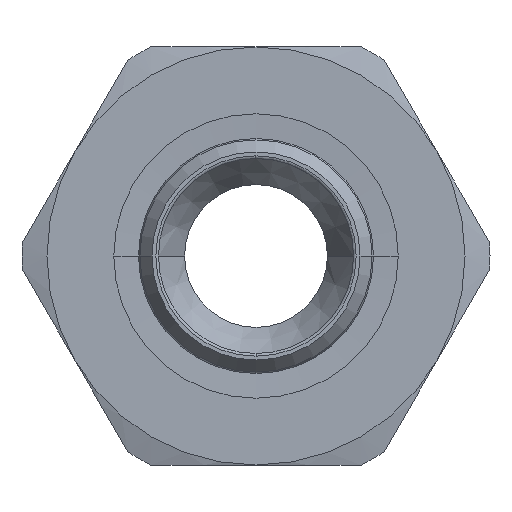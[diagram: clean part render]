
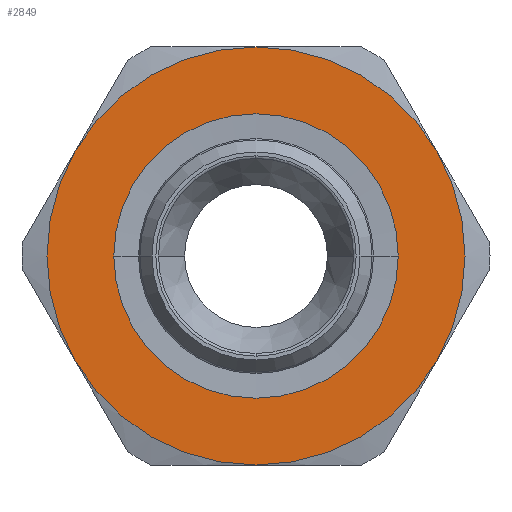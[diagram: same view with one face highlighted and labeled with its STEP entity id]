
A CAD part, left-side view. The second image highlights one B-rep face of the part: STEP entity #2849.
In plain terms, the highlighted planar face has unit normal (-1, 0, 0) as drawn and (0, 0, 1) by its records, which use the part's own axes.
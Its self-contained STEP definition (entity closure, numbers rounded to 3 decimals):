
#1176=CARTESIAN_POINT('',(0.,-13.95,5.));
#1177=VERTEX_POINT('',#1176);
#1193=CARTESIAN_POINT('',(0.,13.95,5.0));
#1194=VERTEX_POINT('',#1193);
#1201=CARTESIAN_POINT('',(0.,0.,5.0));
#1202=DIRECTION('',(0.0,0.0,-1.0));
#1203=DIRECTION('',(0.0,-1.0,0.0));
#1204=AXIS2_PLACEMENT_3D('',#1201,#1202,#1203);
#1205=CIRCLE('',#1204,13.95);
#1206=EDGE_CURVE('',#1177,#1194,#1205,.T.);
#1663=CARTESIAN_POINT('',(0.,0.,5.0));
#1664=DIRECTION('',(0.0,0.0,-1.0));
#1665=DIRECTION('',(0.0,-1.0,0.0));
#1666=AXIS2_PLACEMENT_3D('',#1663,#1664,#1665);
#1667=CIRCLE('',#1666,13.95);
#1668=EDGE_CURVE('',#1194,#1177,#1667,.T.);
#2222=CARTESIAN_POINT('',(10.25,-17.754,5.0));
#2223=VERTEX_POINT('',#2222);
#2237=CARTESIAN_POINT('',(-10.25,-17.754,5.0));
#2238=VERTEX_POINT('',#2237);
#2239=CARTESIAN_POINT('',(0.,0.0,5.0));
#2240=DIRECTION('',(0.0,0.0,1.0));
#2241=DIRECTION('',(1.0,0.0,0.0));
#2242=AXIS2_PLACEMENT_3D('',#2239,#2240,#2241);
#2243=CIRCLE('',#2242,20.5);
#2244=EDGE_CURVE('',#2238,#2223,#2243,.T.);
#2322=CARTESIAN_POINT('',(-20.5,0.,5.0));
#2323=VERTEX_POINT('',#2322);
#2324=CARTESIAN_POINT('',(0.,0.0,5.0));
#2325=DIRECTION('',(0.0,0.0,1.0));
#2326=DIRECTION('',(1.0,0.0,0.0));
#2327=AXIS2_PLACEMENT_3D('',#2324,#2325,#2326);
#2328=CIRCLE('',#2327,20.5);
#2329=EDGE_CURVE('',#2323,#2238,#2328,.T.);
#2406=CARTESIAN_POINT('',(-10.25,17.754,5.0));
#2407=VERTEX_POINT('',#2406);
#2408=CARTESIAN_POINT('',(0.,0.0,5.0));
#2409=DIRECTION('',(0.0,0.0,1.0));
#2410=DIRECTION('',(1.0,0.0,0.0));
#2411=AXIS2_PLACEMENT_3D('',#2408,#2409,#2410);
#2412=CIRCLE('',#2411,20.5);
#2413=EDGE_CURVE('',#2407,#2323,#2412,.T.);
#2490=CARTESIAN_POINT('',(10.25,17.754,5.0));
#2491=VERTEX_POINT('',#2490);
#2492=CARTESIAN_POINT('',(0.,0.0,5.0));
#2493=DIRECTION('',(0.0,0.0,1.0));
#2494=DIRECTION('',(1.0,0.0,0.0));
#2495=AXIS2_PLACEMENT_3D('',#2492,#2493,#2494);
#2496=CIRCLE('',#2495,20.5);
#2497=EDGE_CURVE('',#2491,#2407,#2496,.T.);
#2575=CARTESIAN_POINT('',(20.5,0.0,5.0));
#2576=VERTEX_POINT('',#2575);
#2577=CARTESIAN_POINT('',(0.,0.0,5.0));
#2578=DIRECTION('',(0.0,0.0,1.0));
#2579=DIRECTION('',(1.0,0.0,0.0));
#2580=AXIS2_PLACEMENT_3D('',#2577,#2578,#2579);
#2581=CIRCLE('',#2580,20.5);
#2582=EDGE_CURVE('',#2576,#2491,#2581,.T.);
#2659=CARTESIAN_POINT('',(0.,0.0,5.0));
#2660=DIRECTION('',(0.0,0.0,1.0));
#2661=DIRECTION('',(1.0,0.0,0.0));
#2662=AXIS2_PLACEMENT_3D('',#2659,#2660,#2661);
#2663=CIRCLE('',#2662,20.5);
#2664=EDGE_CURVE('',#2223,#2576,#2663,.T.);
#2832=CARTESIAN_POINT('',(0.,0.,5.0));
#2833=DIRECTION('',(0.0,0.0,1.0));
#2834=DIRECTION('',(1.0,0.0,0.0));
#2835=AXIS2_PLACEMENT_3D('',#2832,#2833,#2834);
#2836=PLANE('',#2835);
#2837=ORIENTED_EDGE('',*,*,#2664,.T.);
#2838=ORIENTED_EDGE('',*,*,#2582,.T.);
#2839=ORIENTED_EDGE('',*,*,#2497,.T.);
#2840=ORIENTED_EDGE('',*,*,#2413,.T.);
#2841=ORIENTED_EDGE('',*,*,#2329,.T.);
#2842=ORIENTED_EDGE('',*,*,#2244,.T.);
#2843=EDGE_LOOP('',(#2837,#2838,#2839,#2840,#2841,#2842));
#2844=FACE_OUTER_BOUND('',#2843,.T.);
#2845=ORIENTED_EDGE('',*,*,#1206,.T.);
#2846=ORIENTED_EDGE('',*,*,#1668,.T.);
#2847=EDGE_LOOP('',(#2845,#2846));
#2848=FACE_BOUND('',#2847,.T.);
#2849=ADVANCED_FACE('',(#2844,#2848),#2836,.T.);
